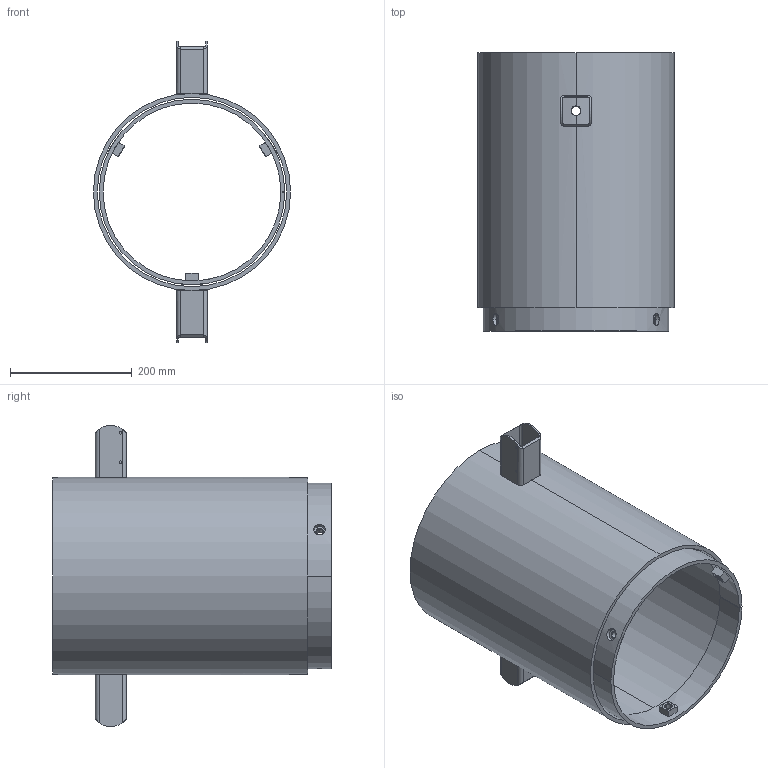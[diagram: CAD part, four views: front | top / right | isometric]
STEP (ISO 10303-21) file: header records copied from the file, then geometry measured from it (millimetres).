
FILE_DESCRIPTION (( 'STEP AP203' ), '1' );
FILE_NAME ('cad-155_1_Series_16.5_Mounting_Ring_dwg.STEP', '2019-05-03T02:38:18', ( '' ), ( '' ), 'SwSTEP 2.0', 'SolidWorks 2018', '' );
FILE_SCHEMA (( 'CONFIG_CONTROL_DESIGN' ));
Length unit declared in the file: inch
Products named in the file (1): cad-155_1_Series_16.5_Mounting_Ring_dwg
Bounding box: 323.85 x 457.2 x 495.3 mm (x, y, z)
Volume: 3009951.4 mm3; surface area: 1009757.1 mm2
Topology: 7 solids, 7 shells, 128 faces, 322 edges, 204 vertices
Faces by surface type: cylinder 52, plane 42, cone 28, bspline 6
Entity records: 6619 total; most frequent: CARTESIAN_POINT 3483, ORIENTED_EDGE 644, DIRECTION 610, EDGE_CURVE 322, AXIS2_PLACEMENT_3D 235, VERTEX_POINT 204, EDGE_LOOP 154, VECTOR 140
